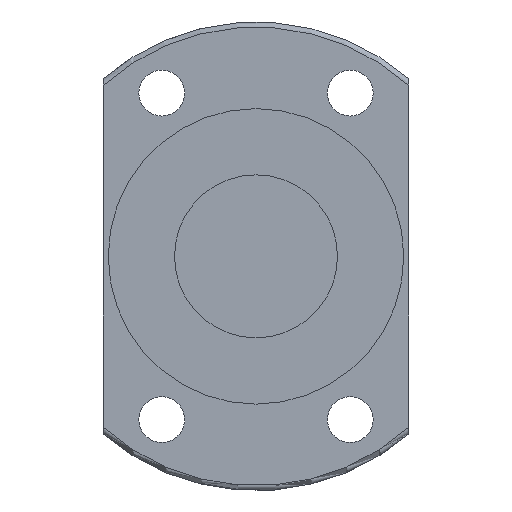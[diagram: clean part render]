
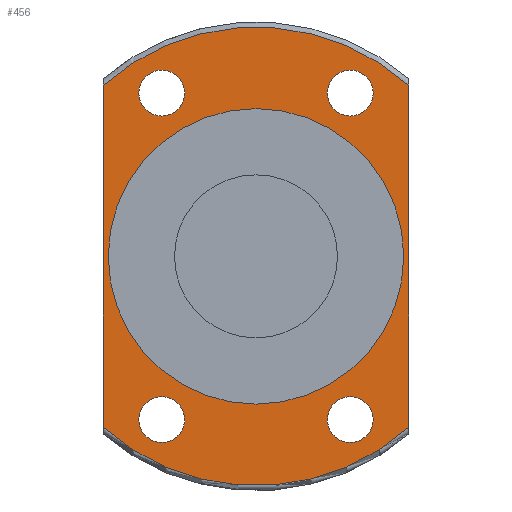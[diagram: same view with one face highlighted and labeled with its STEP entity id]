
A CAD part, left-side view. The second image highlights one B-rep face of the part: STEP entity #456.
In plain terms, the highlighted planar face has unit normal (-1, 0, 0).
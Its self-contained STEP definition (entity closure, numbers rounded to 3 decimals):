
#74=LINE('',#705,#82);
#78=LINE('',#744,#86);
#82=VECTOR('',#568,1000.);
#86=VECTOR('',#574,1000.);
#128=ORIENTED_EDGE('',*,*,#235,.F.);
#129=ORIENTED_EDGE('',*,*,#215,.T.);
#130=ORIENTED_EDGE('',*,*,#236,.F.);
#131=ORIENTED_EDGE('',*,*,#224,.F.);
#132=ORIENTED_EDGE('',*,*,#227,.T.);
#133=ORIENTED_EDGE('',*,*,#229,.T.);
#134=ORIENTED_EDGE('',*,*,#231,.T.);
#135=ORIENTED_EDGE('',*,*,#233,.T.);
#136=ORIENTED_EDGE('',*,*,#237,.F.);
#215=EDGE_CURVE('',#270,#269,#74,.T.);
#224=EDGE_CURVE('',#278,#279,#78,.T.);
#227=EDGE_CURVE('',#281,#281,#307,.T.);
#229=EDGE_CURVE('',#283,#283,#309,.T.);
#231=EDGE_CURVE('',#285,#285,#311,.T.);
#233=EDGE_CURVE('',#287,#287,#313,.T.);
#235=EDGE_CURVE('',#270,#278,#315,.T.);
#236=EDGE_CURVE('',#279,#269,#316,.T.);
#237=EDGE_CURVE('',#289,#289,#317,.T.);
#269=VERTEX_POINT('',#704);
#270=VERTEX_POINT('',#706);
#278=VERTEX_POINT('',#743);
#279=VERTEX_POINT('',#745);
#281=VERTEX_POINT('',#755);
#283=VERTEX_POINT('',#760);
#285=VERTEX_POINT('',#765);
#287=VERTEX_POINT('',#770);
#289=VERTEX_POINT('',#777);
#307=CIRCLE('',#502,4.5);
#309=CIRCLE('',#505,4.5);
#311=CIRCLE('',#508,4.5);
#313=CIRCLE('',#511,4.5);
#315=CIRCLE('',#514,45.);
#316=CIRCLE('',#515,45.);
#317=CIRCLE('',#516,29.);
#346=EDGE_LOOP('',(#128,#129,#130,#131));
#347=EDGE_LOOP('',(#132));
#348=EDGE_LOOP('',(#133));
#349=EDGE_LOOP('',(#134));
#350=EDGE_LOOP('',(#135));
#351=EDGE_LOOP('',(#136));
#398=FACE_BOUND('',#346,.T.);
#399=FACE_BOUND('',#347,.T.);
#400=FACE_BOUND('',#348,.T.);
#401=FACE_BOUND('',#349,.T.);
#402=FACE_BOUND('',#350,.T.);
#403=FACE_BOUND('',#351,.T.);
#440=PLANE('',#513);
#456=ADVANCED_FACE('',(#398,#399,#400,#401,#402,#403),#440,.F.);
#502=AXIS2_PLACEMENT_3D('',#754,#578,#579);
#505=AXIS2_PLACEMENT_3D('',#759,#584,#585);
#508=AXIS2_PLACEMENT_3D('',#764,#590,#591);
#511=AXIS2_PLACEMENT_3D('',#769,#596,#597);
#513=AXIS2_PLACEMENT_3D('',#773,#600,#601);
#514=AXIS2_PLACEMENT_3D('',#774,#602,#603);
#515=AXIS2_PLACEMENT_3D('',#775,#604,#605);
#516=AXIS2_PLACEMENT_3D('',#776,#606,#607);
#568=DIRECTION('',(0.,0.,-1.));
#574=DIRECTION('',(0.,0.,-1.));
#578=DIRECTION('',(1.,0.,0.));
#579=DIRECTION('',(0.,1.,0.));
#584=DIRECTION('',(1.,0.,0.));
#585=DIRECTION('',(0.,1.,0.));
#590=DIRECTION('',(1.,0.,0.));
#591=DIRECTION('',(0.,1.,0.));
#596=DIRECTION('',(1.,0.,0.));
#597=DIRECTION('',(0.,1.,0.));
#600=DIRECTION('',(1.,0.,0.));
#601=DIRECTION('',(0.,1.,0.));
#602=DIRECTION('',(1.,0.,0.));
#603=DIRECTION('',(0.,1.,0.));
#604=DIRECTION('',(1.,0.,0.));
#605=DIRECTION('',(0.,1.,0.));
#606=DIRECTION('',(-1.,0.,0.));
#607=DIRECTION('',(0.,1.,0.));
#704=CARTESIAN_POINT('',(151.804,113.292,-33.541));
#705=CARTESIAN_POINT('',(151.804,113.292,0.));
#706=CARTESIAN_POINT('',(151.804,113.292,33.541));
#743=CARTESIAN_POINT('',(151.804,53.292,33.541));
#744=CARTESIAN_POINT('',(151.804,53.292,0.));
#745=CARTESIAN_POINT('',(151.804,53.292,-33.541));
#754=CARTESIAN_POINT('',(151.804,101.792,-32.043));
#755=CARTESIAN_POINT('',(151.804,106.292,-32.043));
#759=CARTESIAN_POINT('',(151.804,64.792,-32.043));
#760=CARTESIAN_POINT('',(151.804,69.292,-32.043));
#764=CARTESIAN_POINT('',(151.804,64.792,32.043));
#765=CARTESIAN_POINT('',(151.804,69.292,32.043));
#769=CARTESIAN_POINT('',(151.804,101.792,32.043));
#770=CARTESIAN_POINT('',(151.804,106.292,32.043));
#773=CARTESIAN_POINT('',(151.804,112.292,0.));
#774=CARTESIAN_POINT('',(151.804,83.292,0.));
#775=CARTESIAN_POINT('',(151.804,83.292,0.));
#776=CARTESIAN_POINT('',(151.804,83.292,0.));
#777=CARTESIAN_POINT('',(151.804,112.292,0.));
